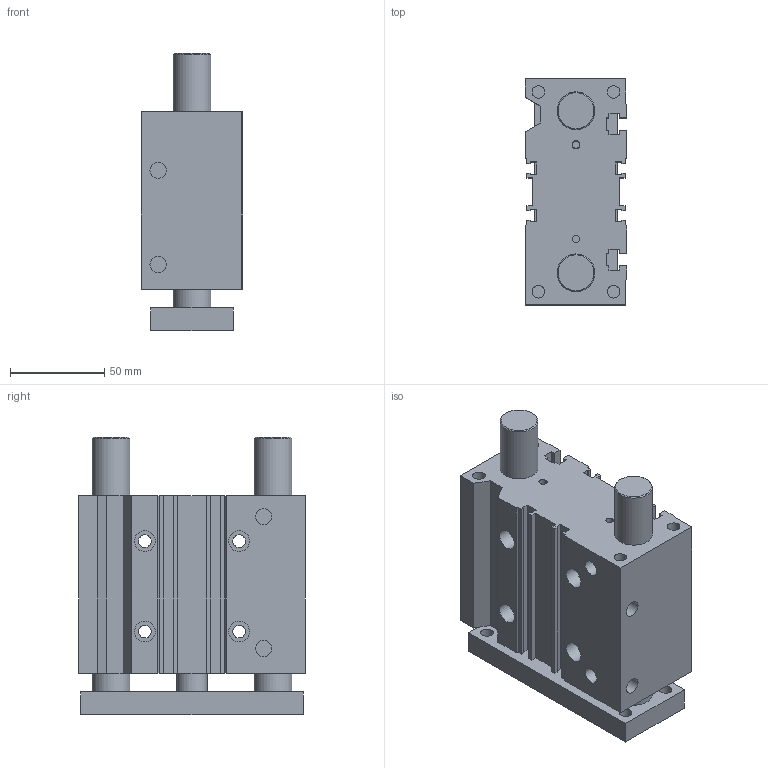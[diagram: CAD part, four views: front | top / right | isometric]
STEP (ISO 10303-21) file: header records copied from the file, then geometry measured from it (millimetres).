
FILE_DESCRIPTION((''),'2;1');
FILE_NAME('I:\Area Tecnica\Disegni\VARIE-3D\Componenti\6100\6100 Ø20-63\6100_##_###_#\6100400050B.stp','2012-01-11T09:04:46',('airolcr1'),(''),'Autodesk Inventor 2012','Autodesk Inventor 2012','');
FILE_SCHEMA(('AUTOMOTIVE_DESIGN { 1 0 10303 214 1 1 1 1 }'));
Length unit declared in the file: millimetre
Products named in the file (3): 6100400050B; CORPO Ø40 C50 B; PIASTRA Ø40 C50 B
Assembly tree (2 placements, depth 2):
  6100400050B
    CORPO Ø40 C50 B
    PIASTRA Ø40 C50 B
Bounding box: 54 x 120 x 147 mm (x, y, z)
Volume: 632793.9 mm3; surface area: 111607.3 mm2
Topology: 2 solids, 2 shells, 166 faces, 417 edges, 277 vertices
Faces by surface type: plane 126, cylinder 38, cone 2
Full cylindrical faces by diameter (mm): 4 x6, 6.647 x8, 6.65 x4, 8.566 x4, 11 x4, 16 x2, 20 x4
Entity records: 5013 total; most frequent: CARTESIAN_POINT 815, DIRECTION 798, ORIENTED_EDGE 750, EDGE_CURVE 375, VECTOR 294, LINE 294, VERTEX_POINT 269, AXIS2_PLACEMENT_3D 252
